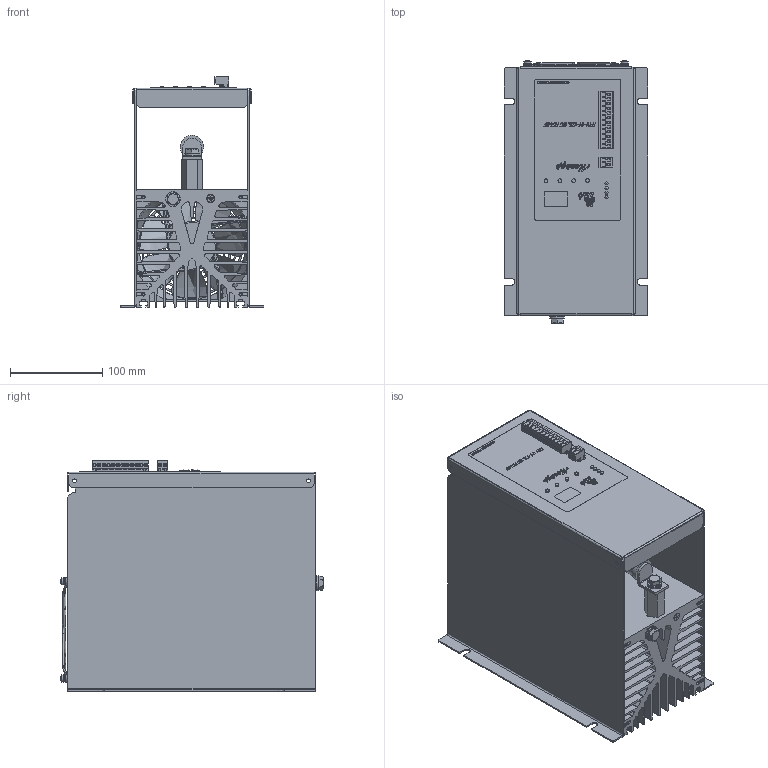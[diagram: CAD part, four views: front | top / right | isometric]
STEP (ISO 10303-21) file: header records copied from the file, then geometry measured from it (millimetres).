
FILE_DESCRIPTION(('STEP AP203'), '1');
FILE_NAME('ﾒﾐﾌ 1ﾌ-125...180 RS485', '', ('UNSPECIFIED'), ('UNSPECIFIED'), 'C3D Converter', 'C3D Toolkit', '');
FILE_SCHEMA(('CONFIG_CONTROL_DESIGN'));
Length unit declared in the file: millimetre
Products named in the file (2): ТРМ-1М-125...180 RS485; МР 83.0608.18 СБ
Assembly tree (4 placements, depth 2):
  ТРМ-1М-125...180 RS485
    МР 83.0608.18 СБ  x4
Bounding box: 155 x 283.91 x 249.4 mm (x, y, z)
Volume: 2100366.1 mm3; surface area: 1078922.5 mm2
Topology: 6 solids, 34 shells, 4740 faces, 13629 edges, 8943 vertices
Faces by surface type: plane 2898, extrusion 1000, cylinder 667, bspline 88, torus 42, cone 37, sphere 8
Full cylindrical faces by diameter (mm): 1.8 x4, 3 x3, 3.1 x14, 3.3 x8, 3.9 x14, 4 x12, 4.2 x4, 4.3 x4, 4.572 x8, 6.1 x4, 8 x9, 8.4 x4, 8.8 x1, 9 x4, 11.6 x4, 16 x8, 21.5 x1, 25 x2, 38.1 x1, 115.062 x1, 118.662 x1
Entity records: 249157 total; most frequent: CARTESIAN_POINT 95403, ORIENTED_EDGE 26252, DIRECTION 20120, EDGE_CURVE 13126, VECTOR 9950, LINE 8950, VERTEX_POINT 8708, AXIS2_PLACEMENT_3D 5085
